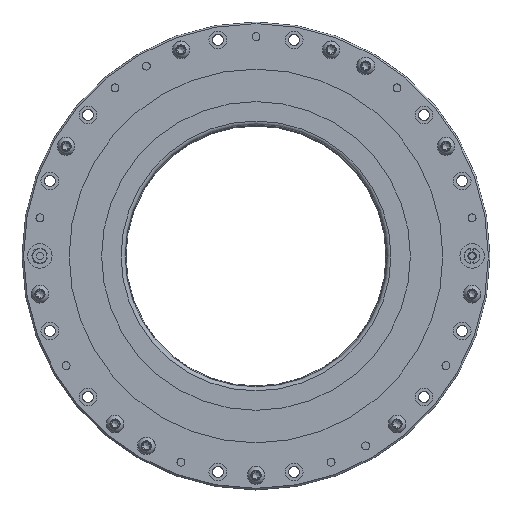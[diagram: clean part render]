
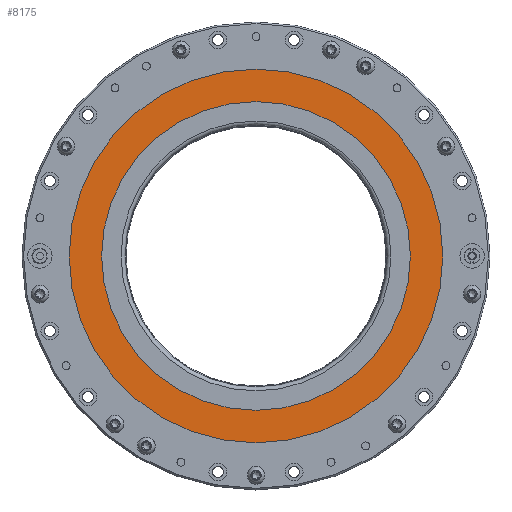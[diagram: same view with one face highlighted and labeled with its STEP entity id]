
A CAD part, top view. The second image highlights one B-rep face of the part: STEP entity #8175.
In plain terms, the highlighted planar face has unit normal (0, 0, 1) as drawn and (0, 0, -1) by its records, which use the part's own axes.
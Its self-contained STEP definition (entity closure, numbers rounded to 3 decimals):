
#868=CIRCLE('',#8853,95.);
#869=CIRCLE('',#8854,115.);
#1878=ORIENTED_EDGE('',*,*,#2819,.T.);
#1879=ORIENTED_EDGE('',*,*,#2820,.F.);
#2819=EDGE_CURVE('',#3440,#3440,#868,.T.);
#2820=EDGE_CURVE('',#3441,#3441,#869,.T.);
#3440=VERTEX_POINT('',#12876);
#3441=VERTEX_POINT('',#12878);
#4440=EDGE_LOOP('',(#1878));
#4441=EDGE_LOOP('',(#1879));
#5231=FACE_BOUND('',#4440,.T.);
#5232=FACE_BOUND('',#4441,.T.);
#5487=PLANE('',#8852);
#8175=ADVANCED_FACE('',(#5231,#5232),#5487,.F.);
#8852=AXIS2_PLACEMENT_3D('',#12874,#10221,#10222);
#8853=AXIS2_PLACEMENT_3D('',#12875,#10223,#10224);
#8854=AXIS2_PLACEMENT_3D('',#12877,#10225,#10226);
#10221=DIRECTION('',(0.,0.,1.));
#10222=DIRECTION('',(1.,0.,0.));
#10223=DIRECTION('',(0.,0.,1.));
#10224=DIRECTION('',(1.,0.,0.));
#10225=DIRECTION('',(0.,0.,1.));
#10226=DIRECTION('',(1.,0.,0.));
#12874=CARTESIAN_POINT('',(95.,0.,-7.5));
#12875=CARTESIAN_POINT('',(0.,0.,-7.5));
#12876=CARTESIAN_POINT('',(95.,0.,-7.5));
#12877=CARTESIAN_POINT('',(0.,0.,-7.5));
#12878=CARTESIAN_POINT('',(115.,0.,-7.5));
